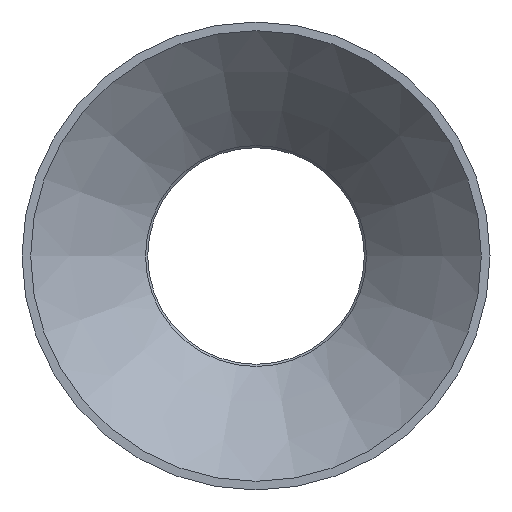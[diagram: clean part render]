
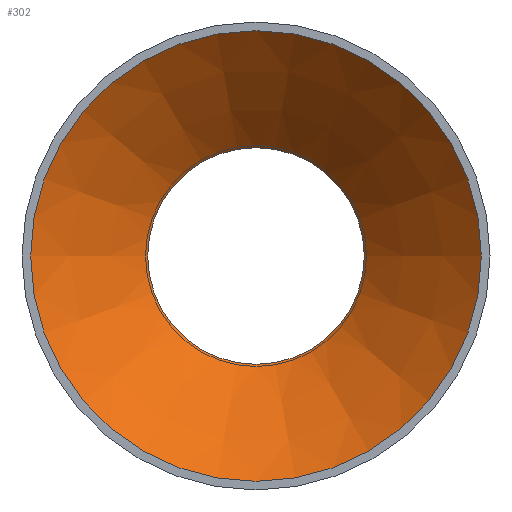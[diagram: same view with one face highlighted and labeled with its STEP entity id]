
A CAD part, left-side view. The second image highlights one B-rep face of the part: STEP entity #302.
In plain terms, the highlighted conical face has half-angle 45.211 degrees and reference radius 38.6 mm.
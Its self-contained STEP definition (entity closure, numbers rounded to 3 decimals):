
#275=CARTESIAN_POINT('',(-13.5,0.0,0.0));
#276=DIRECTION('',(-1.0,0.0,0.0));
#277=DIRECTION('',(0.0,1.0,0.0));
#278=AXIS2_PLACEMENT_3D('',#275,#276,#277);
#279=CONICAL_SURFACE('',#278,38.6,45.211);
#280=CARTESIAN_POINT('',(-27.,52.2,0.0));
#281=VERTEX_POINT('',#280);
#282=CARTESIAN_POINT('',(-27.,0.0,0.0));
#283=DIRECTION('',(1.0,0.0,0.0));
#284=DIRECTION('',(0.0,1.0,0.0));
#285=AXIS2_PLACEMENT_3D('',#282,#283,#284);
#286=CIRCLE('',#285,52.2);
#287=EDGE_CURVE('',#281,#281,#286,.T.);
#288=ORIENTED_EDGE('',*,*,#287,.F.);
#289=EDGE_LOOP('',(#288));
#290=FACE_OUTER_BOUND('',#289,.T.);
#291=CARTESIAN_POINT('',(0.,25.0,0.0));
#292=VERTEX_POINT('',#291);
#293=CARTESIAN_POINT('',(0.,0.0,0.0));
#294=DIRECTION('',(1.0,0.0,0.0));
#295=DIRECTION('',(0.0,1.0,0.0));
#296=AXIS2_PLACEMENT_3D('',#293,#294,#295);
#297=CIRCLE('',#296,25.0);
#298=EDGE_CURVE('',#292,#292,#297,.T.);
#299=ORIENTED_EDGE('',*,*,#298,.T.);
#300=EDGE_LOOP('',(#299));
#301=FACE_BOUND('',#300,.T.);
#302=ADVANCED_FACE('',(#290,#301),#279,.F.);
